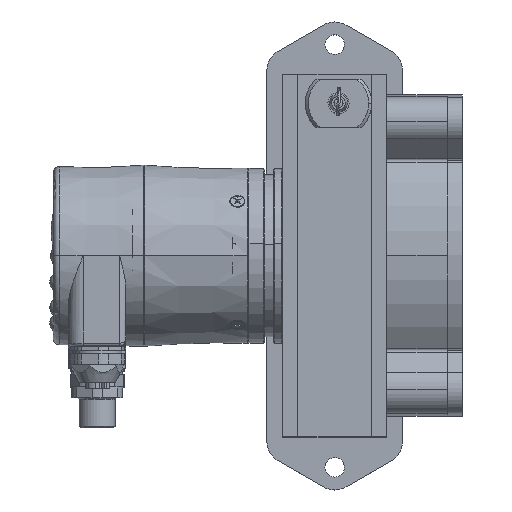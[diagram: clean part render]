
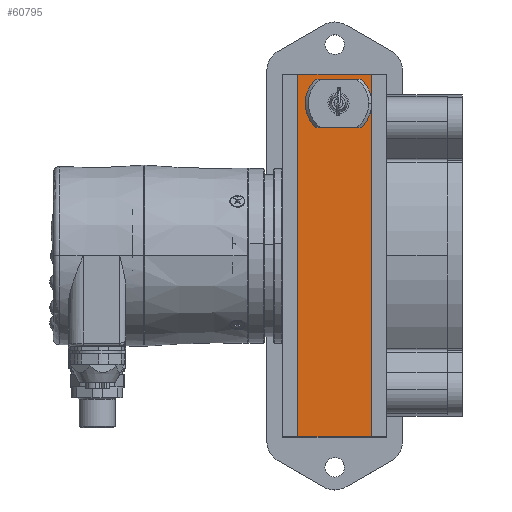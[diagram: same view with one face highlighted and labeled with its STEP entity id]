
A CAD part, top view. The second image highlights one B-rep face of the part: STEP entity #60795.
In plain terms, the highlighted planar face has unit normal (0, 0, 1).
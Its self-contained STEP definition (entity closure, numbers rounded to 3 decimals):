
#24586 = CARTESIAN_POINT ( 'NONE',  ( 19., 36.447, 68.584 ) ) ;
#24723 = CARTESIAN_POINT ( 'NONE',  ( 19.9, 36.447, 68.584 ) ) ;
#24724 = CARTESIAN_POINT ( 'NONE',  ( 23.1, 36.447, 68.584 ) ) ;
#24725 = DIRECTION ( 'NONE',  ( 1., 0., 0. ) ) ;
#24726 = DIRECTION ( 'NONE',  ( 0., 0., 1. ) ) ;
#24727 = CARTESIAN_POINT ( 'NONE',  ( 21.5, 36.447, 68.584 ) ) ;
#24728 = AXIS2_PLACEMENT_3D ( 'NONE', #24727, #24726, #24725 ) ;
#24729 = CIRCLE ( 'NONE', #24728, 1.6 ) ;
#24787 = CARTESIAN_POINT ( 'NONE',  ( 8., 36.447, 68.584 ) ) ;
#24788 = DIRECTION ( 'NONE',  ( -1., 0., 0. ) ) ;
#24789 = DIRECTION ( 'NONE',  ( 0., 0., 1. ) ) ;
#24790 = CARTESIAN_POINT ( 'NONE',  ( 13.5, 36.447, 68.584 ) ) ;
#24791 = AXIS2_PLACEMENT_3D ( 'NONE', #24790, #24789, #24788 ) ;
#24792 = CIRCLE ( 'NONE', #24791, 5.5 ) ;
#24793 = DIRECTION ( 'NONE',  ( 1., 0., 0. ) ) ;
#24794 = DIRECTION ( 'NONE',  ( 0., 0., 1. ) ) ;
#24795 = CARTESIAN_POINT ( 'NONE',  ( 5.5, 36.447, 68.584 ) ) ;
#24796 = AXIS2_PLACEMENT_3D ( 'NONE', #24795, #24794, #24793 ) ;
#24797 = CIRCLE ( 'NONE', #24796, 1.6 ) ;
#24918 = CARTESIAN_POINT ( 'NONE',  ( 0., 46.147, 68.584 ) ) ;
#24928 = CARTESIAN_POINT ( 'NONE',  ( 3.9, 36.447, 68.584 ) ) ;
#24929 = CARTESIAN_POINT ( 'NONE',  ( 7.1, 36.447, 68.584 ) ) ;
#24949 = CIRCLE ( 'NONE', #24999, 1.6 ) ;
#24967 = CARTESIAN_POINT ( 'NONE',  ( 24.5, 46.147, 68.584 ) ) ;
#24968 = DIRECTION ( 'NONE',  ( 1., 0., 0. ) ) ;
#24969 = VECTOR ( 'NONE', #24968, 1000. ) ;
#24970 = CARTESIAN_POINT ( 'NONE',  ( 0., 46.147, 68.584 ) ) ;
#24971 = LINE ( 'NONE', #24970, #24969 ) ;
#24996 = DIRECTION ( 'NONE',  ( 1., 0., 0. ) ) ;
#24997 = DIRECTION ( 'NONE',  ( 0., 0., 1. ) ) ;
#24998 = CARTESIAN_POINT ( 'NONE',  ( 21.5, 36.447, 68.584 ) ) ;
#24999 = AXIS2_PLACEMENT_3D ( 'NONE', #24998, #24997, #24996 ) ;
#25074 = DIRECTION ( 'NONE',  ( 1., 0., 0. ) ) ;
#25075 = DIRECTION ( 'NONE',  ( 0., 0., 1. ) ) ;
#25076 = CARTESIAN_POINT ( 'NONE',  ( 5.5, 36.447, 68.584 ) ) ;
#25077 = AXIS2_PLACEMENT_3D ( 'NONE', #25076, #25075, #25074 ) ;
#25083 = CIRCLE ( 'NONE', #25077, 1.6 ) ;
#25181 = DIRECTION ( 'NONE',  ( -1., 0., 0. ) ) ;
#25182 = DIRECTION ( 'NONE',  ( 0., 0., 1. ) ) ;
#25183 = CARTESIAN_POINT ( 'NONE',  ( 13.5, 36.447, 68.584 ) ) ;
#25184 = AXIS2_PLACEMENT_3D ( 'NONE', #25183, #25182, #25181 ) ;
#25185 = CIRCLE ( 'NONE', #25184, 5.5 ) ;
#25333 = FACE_BOUND ( 'NONE', #60786, .T. ) ;
#25334 = FACE_BOUND ( 'NONE', #60783, .T. ) ;
#25335 = FACE_BOUND ( 'NONE', #60857, .T. ) ;
#25336 = FACE_OUTER_BOUND ( 'NONE', #60796, .T. ) ;
#25337 = DIRECTION ( 'NONE',  ( 0., 1., 0. ) ) ;
#25339 = VECTOR ( 'NONE', #25337, 1000. ) ;
#25340 = CARTESIAN_POINT ( 'NONE',  ( 0., -73.853, 68.584 ) ) ;
#25341 = LINE ( 'NONE', #25340, #25339 ) ;
#25366 = CARTESIAN_POINT ( 'NONE',  ( 24.5, -73.853, 68.584 ) ) ;
#25367 = DIRECTION ( 'NONE',  ( 1., 0., 0. ) ) ;
#25368 = VECTOR ( 'NONE', #25367, 1000. ) ;
#25369 = CARTESIAN_POINT ( 'NONE',  ( 0., -73.853, 68.584 ) ) ;
#25370 = LINE ( 'NONE', #25369, #25368 ) ;
#25371 = DIRECTION ( 'NONE',  ( 1., 0., 0. ) ) ;
#25372 = DIRECTION ( 'NONE',  ( 0., 0., -1. ) ) ;
#25373 = CARTESIAN_POINT ( 'NONE',  ( 0., -73.853, 68.584 ) ) ;
#25374 = AXIS2_PLACEMENT_3D ( 'NONE', #25373, #25372, #25371 ) ;
#25375 = PLANE ( 'NONE',  #25374 ) ;
#25394 = CARTESIAN_POINT ( 'NONE',  ( 0., -73.853, 68.584 ) ) ;
#25536 = DIRECTION ( 'NONE',  ( 0., 1., 0. ) ) ;
#25537 = VECTOR ( 'NONE', #25536, 1000. ) ;
#25538 = CARTESIAN_POINT ( 'NONE',  ( 24.5, 46.147, 68.584 ) ) ;
#25539 = LINE ( 'NONE', #25538, #25537 ) ;
#60553 = VERTEX_POINT ( 'NONE', #24586 ) ;
#60589 = EDGE_CURVE ( 'NONE', #60590, #60591, #24729, .T. ) ;
#60590 = VERTEX_POINT ( 'NONE', #24724 ) ;
#60591 = VERTEX_POINT ( 'NONE', #24723 ) ;
#60604 = EDGE_CURVE ( 'NONE', #60656, #60657, #24797, .T. ) ;
#60606 = EDGE_CURVE ( 'NONE', #60553, #60607, #24792, .T. ) ;
#60607 = VERTEX_POINT ( 'NONE', #24787 ) ;
#60656 = VERTEX_POINT ( 'NONE', #24929 ) ;
#60657 = VERTEX_POINT ( 'NONE', #24928 ) ;
#60662 = VERTEX_POINT ( 'NONE', #24918 ) ;
#60664 = EDGE_CURVE ( 'NONE', #60662, #60665, #24971, .T. ) ;
#60665 = VERTEX_POINT ( 'NONE', #24967 ) ;
#60669 = EDGE_CURVE ( 'NONE', #60591, #60590, #24949, .T. ) ;
#60687 = EDGE_CURVE ( 'NONE', #60657, #60656, #25083, .T. ) ;
#60733 = EDGE_CURVE ( 'NONE', #60607, #60553, #25185, .T. ) ;
#60782 = ORIENTED_EDGE ( 'NONE', *, *, #60606, .F. ) ;
#60783 = EDGE_LOOP ( 'NONE', ( #60784, #60785 ) ) ;
#60784 = ORIENTED_EDGE ( 'NONE', *, *, #60589, .F. ) ;
#60785 = ORIENTED_EDGE ( 'NONE', *, *, #60669, .F. ) ;
#60786 = EDGE_LOOP ( 'NONE', ( #60787, #60788 ) ) ;
#60787 = ORIENTED_EDGE ( 'NONE', *, *, #60604, .F. ) ;
#60788 = ORIENTED_EDGE ( 'NONE', *, *, #60687, .F. ) ;
#60792 = EDGE_CURVE ( 'NONE', #60815, #60662, #25341, .T. ) ;
#60795 = ADVANCED_FACE ( 'NONE', ( #25336, #25335, #25334, #25333 ), #25375, .F. ) ;
#60796 = EDGE_LOOP ( 'NONE', ( #60797, #60798, #60799, #60855 ) ) ;
#60797 = ORIENTED_EDGE ( 'NONE', *, *, #60664, .F. ) ;
#60798 = ORIENTED_EDGE ( 'NONE', *, *, #60792, .F. ) ;
#60799 = ORIENTED_EDGE ( 'NONE', *, *, #60800, .T. ) ;
#60800 = EDGE_CURVE ( 'NONE', #60815, #60801, #25370, .T. ) ;
#60801 = VERTEX_POINT ( 'NONE', #25366 ) ;
#60815 = VERTEX_POINT ( 'NONE', #25394 ) ;
#60855 = ORIENTED_EDGE ( 'NONE', *, *, #60856, .T. ) ;
#60856 = EDGE_CURVE ( 'NONE', #60801, #60665, #25539, .T. ) ;
#60857 = EDGE_LOOP ( 'NONE', ( #60858, #60782 ) ) ;
#60858 = ORIENTED_EDGE ( 'NONE', *, *, #60733, .F. ) ;
